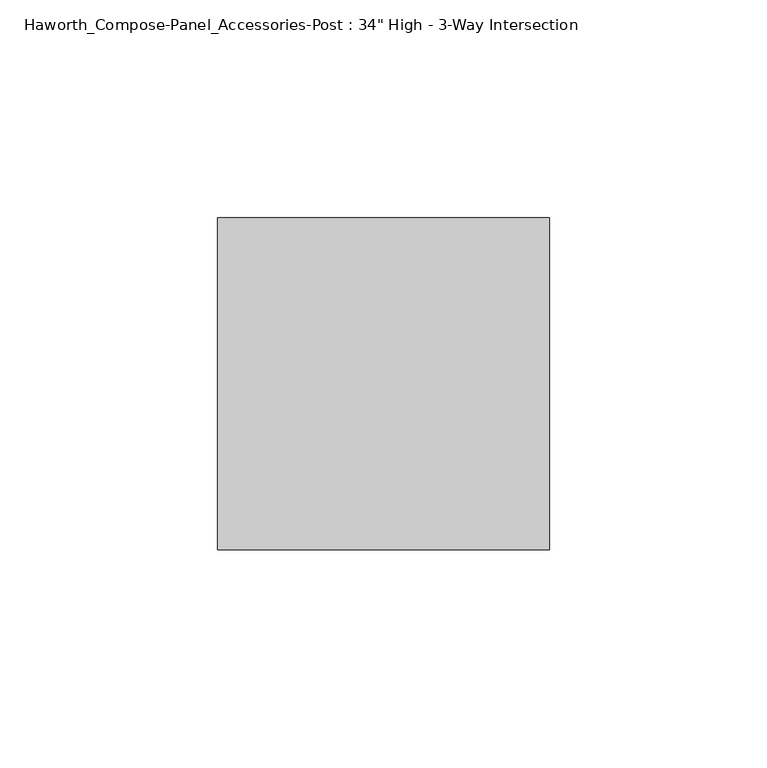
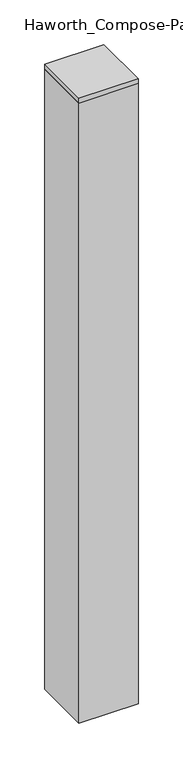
"""IFC4 building model written with IfcOpenShell, lengths in millimetres: furniture geometry."""

from ifc_helpers import new_model, si_unit, frame, origin, place, context, project, spatial, polyline, outline, extrude, source, transform, mapped, element, save


def furniture_7622e100(model_context):
    return source(origin(), model_context, "Body", "SweptSolid", [
        extrude(outline(polyline([(0.0, 38.1), (76.2, 38.1), (76.2, -38.1), (0.0, -38.1), (0.0, 38.1)])), frame((0.0, 0.0, 857.25), z_axis=(0.0, 0.0, 1.0), x_axis=(1.0, 0.0, 0.0)), (0.0, 0.0, 1.0), 6.35),
        extrude(outline(polyline([(76.2, 38.1), (76.2, -38.1), (0.0, -38.1), (0.0, 38.1), (76.2, 38.1)])), frame((0.0, 0.0, 12.7), z_axis=(0.0, 0.0, 1.0), x_axis=(1.0, 0.0, 0.0)), (0.0, 0.0, 1.0), 844.55),
    ])


if __name__ == "__main__":
    model = new_model("IFC4")
    model_context = context("Model", 3, world=origin())
    ifc_project = project(units=[si_unit("LENGTHUNIT", "METRE", prefix="MILLI")], contexts=[model_context])
    site = spatial("IfcSite", under=ifc_project)
    building = spatial("IfcBuilding", under=site)
    placement = place(None, origin())
    furniture_shape = furniture_7622e100(model_context)
    element("IfcFurniture", 1, ObjectType="Haworth_Compose-Panel_Accessories-Post : 34\" High - 3-Way Intersection", at=placement, inside=building, context=model_context, shape_type="MappedRepresentation", body=[
        mapped(furniture_shape, transform((0.0, 0.0, 0.0), x_axis=(1.0, 0.0, 0.0), y_axis=(0.0, 1.0, 0.0), z_axis=(0.0, 0.0, 1.0))),
    ])
    save(model, "model.ifc")
